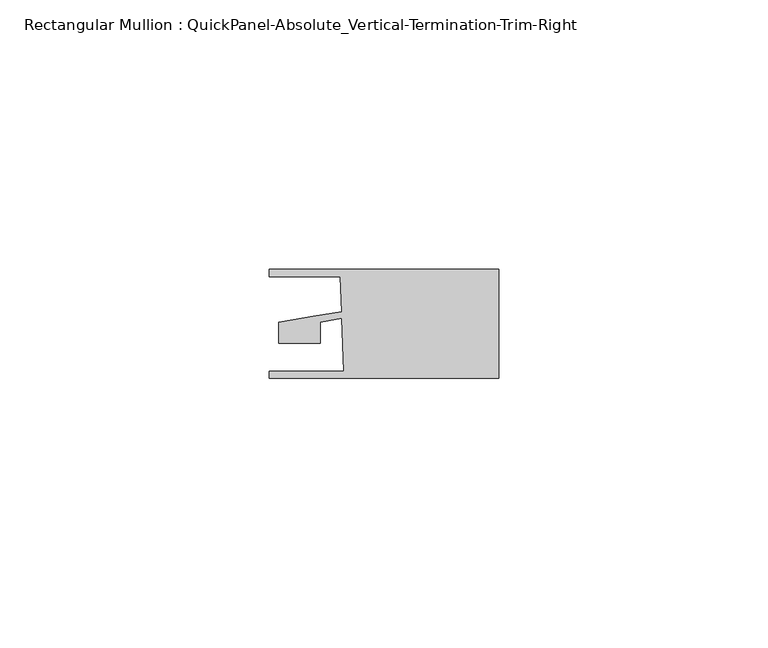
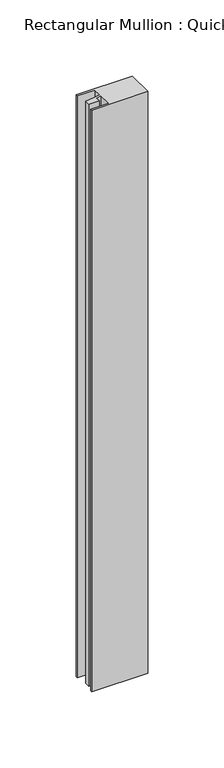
"""IFC4 building model written with IfcOpenShell, lengths in millimetres: member geometry, Rectangular Mullion : QuickPanel-Absolute_Vertical-Termination-Trim-Right."""

from ifc_helpers import new_model, si_unit, frame, origin, place, context, project, spatial, polyline, outline, extrude, source, transform, mapped, element, save


def rectangular_mullion_quickpanel_absolute_vertical_termination_3a699df9(model_context):
    return source(origin(), model_context, "Body", "SweptSolid", [
        extrude(outline(polyline([(-42.7011763, 8.095605), (0.0, 8.095605), (0.0, -12.1803727), (-42.7011763, -12.1803727), (-42.7011763, -10.9303752), (-28.8448229, -10.9303752), (-29.1887499, -1.0815922), (-33.1743189, -1.7648465), (-33.1743189, -5.6493034), (-40.919092, -5.6493034), (-40.919092, -1.8040245), (-34.4837593, -0.7008023), (-29.2334784, 0.1992641), (-29.4602636, 6.6935423), (-42.7011763, 6.6935423), (-42.7011763, 8.095605)])), frame((0.0, 0.0, -466.6765358), z_axis=(0.0, 0.0, 1.0), x_axis=(1.0, 0.0, 0.0)), (0.0, 0.0, 1.0), 466.6765358),
    ])


if __name__ == "__main__":
    model = new_model("IFC4")
    model_context = context("Model", 3, world=origin())
    ifc_project = project(units=[si_unit("LENGTHUNIT", "METRE", prefix="MILLI")], contexts=[model_context])
    site = spatial("IfcSite", under=ifc_project)
    building = spatial("IfcBuilding", under=site)
    placement = place(None, origin())
    rectangular_mullion_quickpanel_absolute_vertical_termination_shape = rectangular_mullion_quickpanel_absolute_vertical_termination_3a699df9(model_context)
    element("IfcMember", 1, ObjectType="Rectangular Mullion : QuickPanel-Absolute_Vertical-Termination-Trim-Right", at=placement, inside=building, context=model_context, shape_type="MappedRepresentation", body=[
        mapped(rectangular_mullion_quickpanel_absolute_vertical_termination_shape, transform((0.0, 0.0, 0.0), x_axis=(1.0, 0.0, 0.0), y_axis=(0.0, 1.0, 0.0), z_axis=(0.0, 0.0, 1.0))),
    ])
    save(model, "model.ifc")
